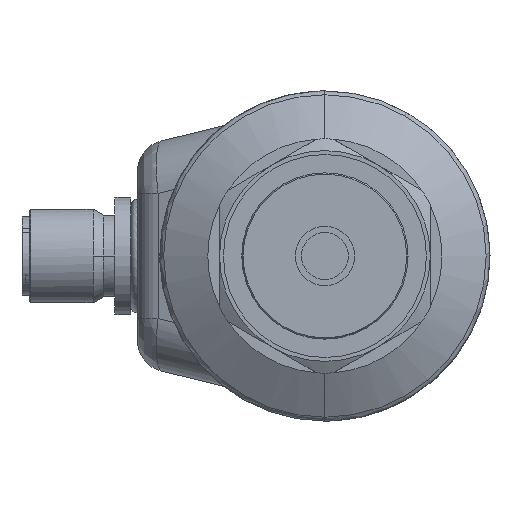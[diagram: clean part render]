
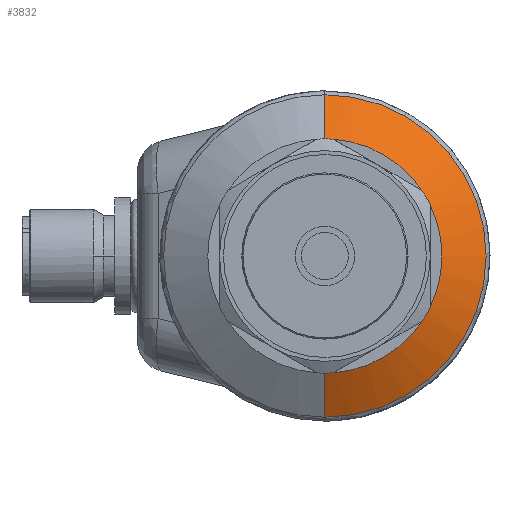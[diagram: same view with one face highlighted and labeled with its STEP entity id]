
A CAD part, front view. The second image highlights one B-rep face of the part: STEP entity #3832.
In plain terms, the highlighted conical face has half-angle 60 degrees and reference radius 17.825 mm.
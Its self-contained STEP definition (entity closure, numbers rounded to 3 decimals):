
#245=CARTESIAN_POINT('',(0.,-27.551,0.));
#246=DIRECTION('',(0.,1.,0.));
#247=DIRECTION('',(0.,0.,1.));
#248=AXIS2_PLACEMENT_3D('',#245,#246,#247);
#417=CARTESIAN_POINT('',(0.,-27.551,0.));
#418=DIRECTION('',(0.,1.,0.));
#419=DIRECTION('',(0.9,0.,-0.436));
#420=AXIS2_PLACEMENT_3D('',#417,#418,#419);
#459=CARTESIAN_POINT('',(0.,-27.551,0.));
#460=DIRECTION('',(0.,1.,0.));
#461=DIRECTION('',(0.827,0.,0.561));
#462=AXIS2_PLACEMENT_3D('',#459,#460,#461);
#468=CARTESIAN_POINT('',(0.,-27.551,0.));
#469=DIRECTION('',(0.,1.,0.));
#470=DIRECTION('',(0.073,0.,0.997));
#471=AXIS2_PLACEMENT_3D('',#468,#469,#470);
#477=DIRECTION('',(0.,-0.5,0.866));
#478=VECTOR('',#477,6.524);
#479=CARTESIAN_POINT('',(0.,-24.289,-20.65));
#480=LINE('',#479,#478);
#481=DIRECTION('',(0.,0.5,0.866));
#482=VECTOR('',#481,6.524);
#483=CARTESIAN_POINT('',(0.,-27.551,15.));
#484=LINE('',#483,#482);
#500=CARTESIAN_POINT('',(0.,-24.289,0.));
#501=DIRECTION('',(0.,-1.,0.));
#502=DIRECTION('',(0.,0.,-1.));
#503=AXIS2_PLACEMENT_3D('',#500,#501,#502);
#2688=CARTESIAN_POINT('',(0.,-27.551,0.));
#2689=DIRECTION('',(0.,1.,0.));
#2690=DIRECTION('',(0.073,0.,-0.997));
#2691=AXIS2_PLACEMENT_3D('',#2688,#2689,#2690);
#2698=CARTESIAN_POINT('',(0.,-27.551,0.));
#2699=DIRECTION('',(0.,1.,0.));
#2700=DIRECTION('',(0.827,0.,-0.561));
#2701=AXIS2_PLACEMENT_3D('',#2698,#2699,#2700);
#2707=CARTESIAN_POINT('',(0.,-27.551,0.));
#2708=DIRECTION('',(0.,1.,0.));
#2709=DIRECTION('',(0.9,0.,0.436));
#2710=AXIS2_PLACEMENT_3D('',#2707,#2708,#2709);
#2749=CARTESIAN_POINT('',(0.,-24.289,-20.65));
#2750=CARTESIAN_POINT('',(0.,-24.289,20.65));
#2751=VERTEX_POINT('',#2749);
#2752=VERTEX_POINT('',#2750);
#2753=CARTESIAN_POINT('',(0.,-27.551,-15.));
#2754=VERTEX_POINT('',#2753);
#2755=CARTESIAN_POINT('',(0.,-27.551,15.));
#2756=VERTEX_POINT('',#2755);
#2757=CARTESIAN_POINT('',(1.088,-27.551,
-14.961));
#2758=VERTEX_POINT('',#2757);
#2792=CARTESIAN_POINT('',(1.088,-27.551,14.961));
#2793=VERTEX_POINT('',#2792);
#2811=CARTESIAN_POINT('',(12.412,-27.551,8.422));
#2813=VERTEX_POINT('',#2811);
#2816=CARTESIAN_POINT('',(13.5,-27.551,6.538));
#2817=VERTEX_POINT('',#2816);
#2818=CARTESIAN_POINT('',(13.5,-27.551,
-6.538));
#2819=VERTEX_POINT('',#2818);
#2824=CARTESIAN_POINT('',(12.412,-27.551,
-8.422));
#2825=VERTEX_POINT('',#2824);
#3809=CARTESIAN_POINT('',(0.,-25.92,0.));
#3810=DIRECTION('',(0.,1.,0.));
#3811=DIRECTION('',(0.,0.,1.));
#3812=AXIS2_PLACEMENT_3D('',#3809,#3810,#3811);
#3813=CONICAL_SURFACE('',#3812,17.825,60.);
#3815=ORIENTED_EDGE('',*,*,#3814,.T.);
#3817=ORIENTED_EDGE('',*,*,#3816,.F.);
#3819=ORIENTED_EDGE('',*,*,#3818,.F.);
#3820=ORIENTED_EDGE('',*,*,#3734,.F.);
#3822=ORIENTED_EDGE('',*,*,#3821,.F.);
#3823=ORIENTED_EDGE('',*,*,#3778,.F.);
#3824=ORIENTED_EDGE('',*,*,#3803,.F.);
#3825=ORIENTED_EDGE('',*,*,#3567,.F.);
#3827=ORIENTED_EDGE('',*,*,#3826,.T.);
#3829=ORIENTED_EDGE('',*,*,#3828,.F.);
#3830=EDGE_LOOP('',(#3815,#3817,#3819,#3820,#3822,#3823,#3824,#3825,#3827,
#3829));
#3831=FACE_OUTER_BOUND('',#3830,.F.);
#3832=ADVANCED_FACE('',(#3831),#3813,.T.);
#249=CIRCLE('',#248,15.);
#421=CIRCLE('',#420,15.);
#463=CIRCLE('',#462,15.);
#472=CIRCLE('',#471,15.);
#504=CIRCLE('',#503,20.65);
#2692=CIRCLE('',#2691,15.);
#2702=CIRCLE('',#2701,15.);
#2711=CIRCLE('',#2710,15.);
#3567=EDGE_CURVE('',#2756,#2793,#249,.T.);
#3734=EDGE_CURVE('',#2819,#2825,#421,.T.);
#3778=EDGE_CURVE('',#2813,#2817,#463,.T.);
#3803=EDGE_CURVE('',#2793,#2813,#472,.T.);
#3814=EDGE_CURVE('',#2751,#2754,#480,.T.);
#3816=EDGE_CURVE('',#2758,#2754,#2692,.T.);
#3818=EDGE_CURVE('',#2825,#2758,#2702,.T.);
#3821=EDGE_CURVE('',#2817,#2819,#2711,.T.);
#3826=EDGE_CURVE('',#2756,#2752,#484,.T.);
#3828=EDGE_CURVE('',#2751,#2752,#504,.T.);
